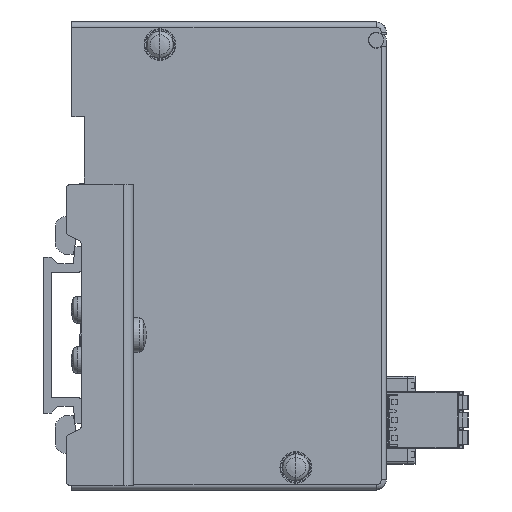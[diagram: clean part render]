
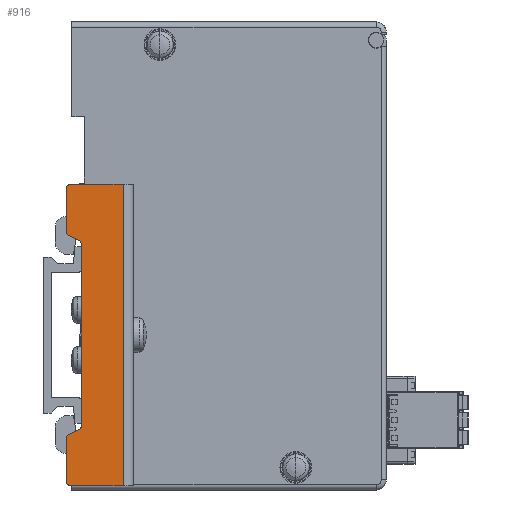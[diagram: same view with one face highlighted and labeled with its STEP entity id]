
A CAD part, left-side view. The second image highlights one B-rep face of the part: STEP entity #916.
In plain terms, the highlighted planar face has unit normal (-1, 0, 0).
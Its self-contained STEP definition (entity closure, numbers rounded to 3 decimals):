
#916=ADVANCED_FACE('',(#8697),#8696,.T.);
#8696=PLANE('',#14709);
#8697=FACE_OUTER_BOUND('',#14710,.T.);
#14706=CARTESIAN_POINT('',(-13.,-3.37,-36.));
#14707=DIRECTION('',(-1.,0.,0.));
#14708=DIRECTION('',(0.,-1.,0.));
#14709=AXIS2_PLACEMENT_3D('',#14706,#14707,#14708);
#14710=EDGE_LOOP('',(#19490,#19491,#19492,#19493,#19494,#19495,#19496,#19497,#19498,#19499,#19500,#19501,#19502,#19503));
#19490=ORIENTED_EDGE('',*,*,#22153,.F.);
#19491=ORIENTED_EDGE('',*,*,#22154,.T.);
#19492=ORIENTED_EDGE('',*,*,#22155,.T.);
#19493=ORIENTED_EDGE('',*,*,#22156,.T.);
#19494=ORIENTED_EDGE('',*,*,#22157,.F.);
#19495=ORIENTED_EDGE('',*,*,#22158,.T.);
#19496=ORIENTED_EDGE('',*,*,#22159,.T.);
#19497=ORIENTED_EDGE('',*,*,#22160,.T.);
#19498=ORIENTED_EDGE('',*,*,#22161,.T.);
#19499=ORIENTED_EDGE('',*,*,#22162,.T.);
#19500=ORIENTED_EDGE('',*,*,#22163,.T.);
#19501=ORIENTED_EDGE('',*,*,#22164,.F.);
#19502=ORIENTED_EDGE('',*,*,#22165,.T.);
#19503=ORIENTED_EDGE('',*,*,#22166,.F.);
#22153=EDGE_CURVE('',#35643,#35644,#35645,.T.);
#22154=EDGE_CURVE('',#35643,#35651,#35652,.T.);
#22155=EDGE_CURVE('',#35651,#35658,#35659,.T.);
#22156=EDGE_CURVE('',#35658,#35665,#35666,.T.);
#22157=EDGE_CURVE('',#35672,#35665,#35673,.T.);
#22158=EDGE_CURVE('',#35672,#35679,#35680,.T.);
#22159=EDGE_CURVE('',#35679,#35686,#35687,.T.);
#22160=EDGE_CURVE('',#35686,#35693,#35694,.T.);
#22161=EDGE_CURVE('',#35693,#35700,#35701,.T.);
#22162=EDGE_CURVE('',#35700,#35707,#35708,.T.);
#22163=EDGE_CURVE('',#35707,#35714,#35715,.T.);
#22164=EDGE_CURVE('',#35721,#35714,#35722,.T.);
#22165=EDGE_CURVE('',#35721,#35728,#35729,.T.);
#22166=EDGE_CURVE('',#35644,#35728,#35735,.T.);
#35643=VERTEX_POINT('',#45600);
#35644=VERTEX_POINT('',#45601);
#35645=LINE('',#45602,#45603);
#35651=VERTEX_POINT('',#45605);
#35652=CIRCLE('',#45609,1.);
#35658=VERTEX_POINT('',#45610);
#35659=LINE('',#45611,#45612);
#35665=VERTEX_POINT('',#45614);
#35666=CIRCLE('',#45618,1.);
#35672=VERTEX_POINT('',#45619);
#35673=LINE('',#45620,#45621);
#35679=VERTEX_POINT('',#45623);
#35680=LINE('',#45624,#45625);
#35686=VERTEX_POINT('',#45627);
#35687=LINE('',#45628,#45629);
#35693=VERTEX_POINT('',#45631);
#35694=CIRCLE('',#45635,1.);
#35700=VERTEX_POINT('',#45636);
#35701=LINE('',#45637,#45638);
#35707=VERTEX_POINT('',#45640);
#35708=CIRCLE('',#45644,1.);
#35714=VERTEX_POINT('',#45645);
#35715=LINE('',#45646,#45647);
#35721=VERTEX_POINT('',#45649);
#35722=CIRCLE('',#45653,1.);
#35728=VERTEX_POINT('',#45654);
#35729=LINE('',#45655,#45656);
#35735=CIRCLE('',#45661,1.);
#45600=CARTESIAN_POINT('',(-13.,-5.077,-19.73));
#45601=CARTESIAN_POINT('',(-13.,-6.923,-18.869));
#45602=CARTESIAN_POINT('',(-13.,-5.077,-19.73));
#45603=VECTOR('',#45604,2.036);
#45604=DIRECTION('',(0.,-0.906,0.423));
#45605=CARTESIAN_POINT('',(-13.,-4.5,-20.636));
#45606=CARTESIAN_POINT('',(-13.,-5.5,-20.636));
#45607=DIRECTION('',(-1.,0.,0.));
#45608=DIRECTION('',(0.,0.,1.));
#45609=AXIS2_PLACEMENT_3D('',#45606,#45607,#45608);
#45610=CARTESIAN_POINT('',(-13.,-4.5,-29.));
#45611=CARTESIAN_POINT('',(-13.,-4.5,-20.636));
#45612=VECTOR('',#45613,8.364);
#45613=DIRECTION('',(0.,0.,-1.));
#45614=CARTESIAN_POINT('',(-13.,-5.5,-30.));
#45615=CARTESIAN_POINT('',(-13.,-5.5,-29.));
#45616=DIRECTION('',(-1.,0.,0.));
#45617=DIRECTION('',(0.,0.,1.));
#45618=AXIS2_PLACEMENT_3D('',#45615,#45616,#45617);
#45619=CARTESIAN_POINT('',(-13.,-15.8,-30.));
#45620=CARTESIAN_POINT('',(-13.,-15.8,-30.));
#45621=VECTOR('',#45622,10.3);
#45622=DIRECTION('',(0.,1.,0.));
#45623=CARTESIAN_POINT('',(-13.,-15.8,30.));
#45624=CARTESIAN_POINT('',(-13.,-15.8,-30.));
#45625=VECTOR('',#45626,60.);
#45626=DIRECTION('',(0.,0.,1.));
#45627=CARTESIAN_POINT('',(-13.,-5.5,30.));
#45628=CARTESIAN_POINT('',(-13.,-15.8,30.));
#45629=VECTOR('',#45630,10.3);
#45630=DIRECTION('',(0.,1.,0.));
#45631=CARTESIAN_POINT('',(-13.,-4.5,29.));
#45632=CARTESIAN_POINT('',(-13.,-5.5,29.));
#45633=DIRECTION('',(-1.,0.,0.));
#45634=DIRECTION('',(0.,0.,1.));
#45635=AXIS2_PLACEMENT_3D('',#45632,#45633,#45634);
#45636=CARTESIAN_POINT('',(-13.,-4.5,20.636));
#45637=CARTESIAN_POINT('',(-13.,-4.5,29.));
#45638=VECTOR('',#45639,8.364);
#45639=DIRECTION('',(0.,0.,-1.));
#45640=CARTESIAN_POINT('',(-13.,-5.077,19.73));
#45641=CARTESIAN_POINT('',(-13.,-5.5,20.636));
#45642=DIRECTION('',(-1.,0.,0.));
#45643=DIRECTION('',(0.,0.,1.));
#45644=AXIS2_PLACEMENT_3D('',#45641,#45642,#45643);
#45645=CARTESIAN_POINT('',(-13.,-6.923,18.869));
#45646=CARTESIAN_POINT('',(-13.,-5.077,19.73));
#45647=VECTOR('',#45648,2.036);
#45648=DIRECTION('',(0.,-0.906,-0.423));
#45649=CARTESIAN_POINT('',(-13.,-7.5,17.963));
#45650=CARTESIAN_POINT('',(-13.,-6.5,17.963));
#45651=DIRECTION('',(-1.,0.,0.));
#45652=DIRECTION('',(0.,0.,1.));
#45653=AXIS2_PLACEMENT_3D('',#45650,#45651,#45652);
#45654=CARTESIAN_POINT('',(-13.,-7.5,-17.963));
#45655=CARTESIAN_POINT('',(-13.,-7.5,17.963));
#45656=VECTOR('',#45657,35.926);
#45657=DIRECTION('',(0.,0.,-1.));
#45658=CARTESIAN_POINT('',(-13.,-6.5,-17.963));
#45659=DIRECTION('',(-1.,0.,0.));
#45660=DIRECTION('',(0.,0.,1.));
#45661=AXIS2_PLACEMENT_3D('',#45658,#45659,#45660);
